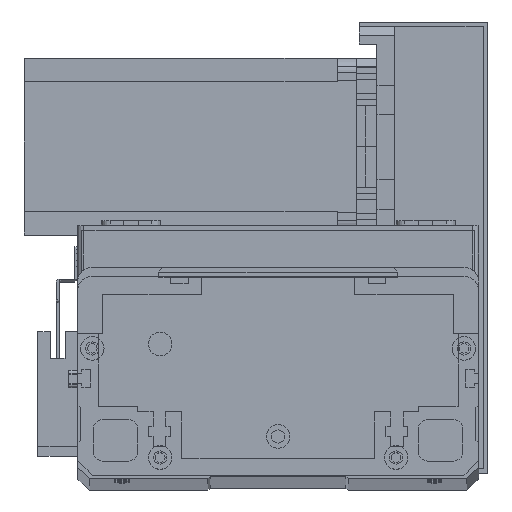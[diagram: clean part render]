
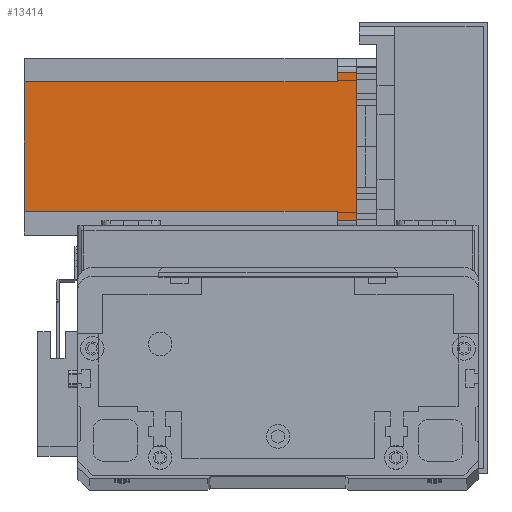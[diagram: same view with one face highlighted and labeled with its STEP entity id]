
A CAD part, top view. The second image highlights one B-rep face of the part: STEP entity #13414.
In plain terms, the highlighted planar face has unit normal (0, 0, 1) as drawn and (0, 1, 0) by its records, which use the part's own axes.
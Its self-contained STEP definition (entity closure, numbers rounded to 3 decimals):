
#305 = LINE ( 'NONE', #20000, #13413 ) ;
#507 = CARTESIAN_POINT ( 'NONE',  ( 8., 60., -112.5 ) ) ;
#1389 = VECTOR ( 'NONE', #8070, 1000. ) ;
#1684 = ORIENTED_EDGE ( 'NONE', *, *, #21954, .T. ) ;
#2947 = LINE ( 'NONE', #9972, #15863 ) ;
#3090 = VERTEX_POINT ( 'NONE', #21131 ) ;
#3120 = DIRECTION ( 'NONE',  ( 0., 1., 0. ) ) ;
#3279 = FACE_OUTER_BOUND ( 'NONE', #12666, .T. ) ;
#3320 = VERTEX_POINT ( 'NONE', #9492 ) ;
#3949 = VERTEX_POINT ( 'NONE', #25086 ) ;
#5776 = CARTESIAN_POINT ( 'NONE',  ( 52., 60., -112.5 ) ) ;
#6280 = VERTEX_POINT ( 'NONE', #9794 ) ;
#6551 = LINE ( 'NONE', #5776, #24405 ) ;
#6769 = ORIENTED_EDGE ( 'NONE', *, *, #18227, .T. ) ;
#7724 = LINE ( 'NONE', #8354, #19464 ) ;
#7794 = VECTOR ( 'NONE', #17842, 1000. ) ;
#7994 = DIRECTION ( 'NONE',  ( -1., 0., 0. ) ) ;
#8070 = DIRECTION ( 'NONE',  ( 1., 0., 0. ) ) ;
#8248 = ORIENTED_EDGE ( 'NONE', *, *, #10717, .F. ) ;
#8354 = CARTESIAN_POINT ( 'NONE',  ( 0., 60., 0. ) ) ;
#9422 = ORIENTED_EDGE ( 'NONE', *, *, #24355, .F. ) ;
#9435 = VERTEX_POINT ( 'NONE', #10909 ) ;
#9492 = CARTESIAN_POINT ( 'NONE',  ( 52., 60., -6.5 ) ) ;
#9794 = CARTESIAN_POINT ( 'NONE',  ( 55., 60., -6.5 ) ) ;
#9972 = CARTESIAN_POINT ( 'NONE',  ( 0., 60., -112.5 ) ) ;
#10057 = VECTOR ( 'NONE', #19824, 1000. ) ;
#10294 = CARTESIAN_POINT ( 'NONE',  ( 5., 60., 0. ) ) ;
#10376 = CARTESIAN_POINT ( 'NONE',  ( 52., 60., -6.5 ) ) ;
#10651 = DIRECTION ( 'NONE',  ( 0., 0., 1. ) ) ;
#10668 = CARTESIAN_POINT ( 'NONE',  ( 5., 60., -6.5 ) ) ;
#10717 = EDGE_CURVE ( 'NONE', #3090, #14717, #7724, .T. ) ;
#10783 = DIRECTION ( 'NONE',  ( 0., 0., 1. ) ) ;
#10909 = CARTESIAN_POINT ( 'NONE',  ( 8., 60., -6.5 ) ) ;
#11131 = VECTOR ( 'NONE', #12946, 1000. ) ;
#11302 = ORIENTED_EDGE ( 'NONE', *, *, #23179, .F. ) ;
#11534 = LINE ( 'NONE', #507, #10057 ) ;
#11976 = CARTESIAN_POINT ( 'NONE',  ( 0., 60., -112.5 ) ) ;
#12666 = EDGE_LOOP ( 'NONE', ( #8248, #27944, #9422, #26294, #6769, #11302, #15703, #1684 ) ) ;
#12946 = DIRECTION ( 'NONE',  ( 0., 0., -1. ) ) ;
#12968 = CARTESIAN_POINT ( 'NONE',  ( 52., 60., -112.5 ) ) ;
#13413 = VECTOR ( 'NONE', #10651, 1000. ) ;
#13414 = ADVANCED_FACE ( 'NONE', ( #3279 ), #14667, .T. ) ;
#13482 = VERTEX_POINT ( 'NONE', #12968 ) ;
#14553 = DIRECTION ( 'NONE',  ( -1., 0., 0. ) ) ;
#14667 = PLANE ( 'NONE',  #17897 ) ;
#14717 = VERTEX_POINT ( 'NONE', #10294 ) ;
#15218 = CARTESIAN_POINT ( 'NONE',  ( 55., 60., -112.5 ) ) ;
#15703 = ORIENTED_EDGE ( 'NONE', *, *, #23239, .T. ) ;
#15863 = VECTOR ( 'NONE', #14553, 1000. ) ;
#17842 = DIRECTION ( 'NONE',  ( -1., 0., 0. ) ) ;
#17897 = AXIS2_PLACEMENT_3D ( 'NONE', #11976, #3120, #27881 ) ;
#18227 = EDGE_CURVE ( 'NONE', #13482, #3949, #2947, .T. ) ;
#19464 = VECTOR ( 'NONE', #7994, 1000. ) ;
#19824 = DIRECTION ( 'NONE',  ( 0., 0., -1. ) ) ;
#20000 = CARTESIAN_POINT ( 'NONE',  ( 5., 60., -112.5 ) ) ;
#20522 = LINE ( 'NONE', #10376, #1389 ) ;
#21131 = CARTESIAN_POINT ( 'NONE',  ( 55., 60., 0. ) ) ;
#21954 = EDGE_CURVE ( 'NONE', #27916, #14717, #305, .T. ) ;
#23179 = EDGE_CURVE ( 'NONE', #9435, #3949, #11534, .T. ) ;
#23239 = EDGE_CURVE ( 'NONE', #9435, #27916, #26188, .T. ) ;
#23393 = LINE ( 'NONE', #15218, #11131 ) ;
#23799 = EDGE_CURVE ( 'NONE', #3090, #6280, #23393, .T. ) ;
#24355 = EDGE_CURVE ( 'NONE', #3320, #6280, #20522, .T. ) ;
#24405 = VECTOR ( 'NONE', #10783, 1000. ) ;
#24439 = EDGE_CURVE ( 'NONE', #13482, #3320, #6551, .T. ) ;
#25086 = CARTESIAN_POINT ( 'NONE',  ( 8., 60., -112.5 ) ) ;
#26188 = LINE ( 'NONE', #26694, #7794 ) ;
#26294 = ORIENTED_EDGE ( 'NONE', *, *, #24439, .F. ) ;
#26694 = CARTESIAN_POINT ( 'NONE',  ( 8., 60., -6.5 ) ) ;
#27881 = DIRECTION ( 'NONE',  ( 0., 0., 1. ) ) ;
#27916 = VERTEX_POINT ( 'NONE', #10668 ) ;
#27944 = ORIENTED_EDGE ( 'NONE', *, *, #23799, .T. ) ;
